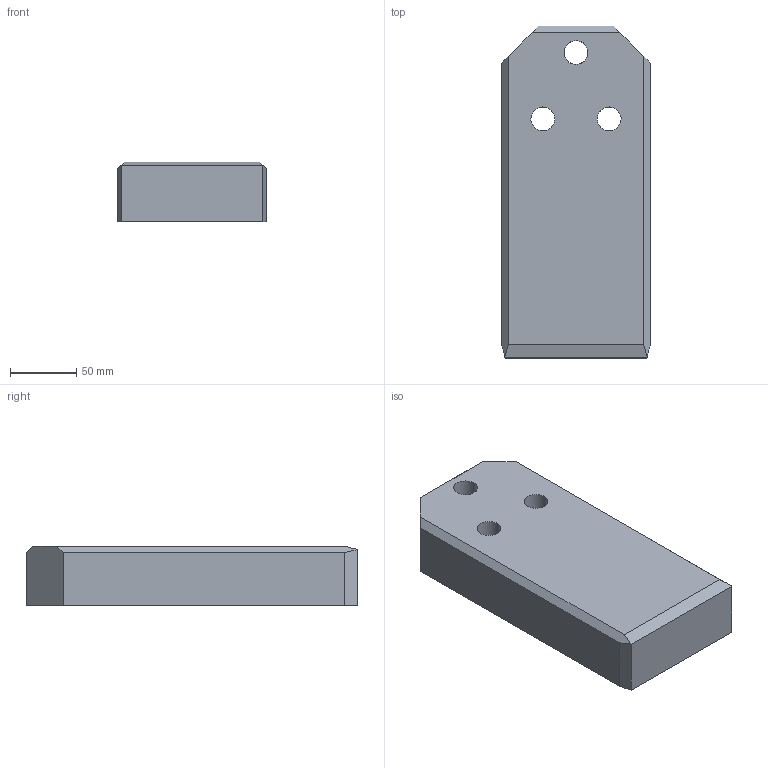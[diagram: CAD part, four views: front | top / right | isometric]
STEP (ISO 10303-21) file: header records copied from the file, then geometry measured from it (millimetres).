
FILE_DESCRIPTION(('CATIA V5 STEP Exchange'),'2;1');
FILE_NAME('C:\Users\borellobunino\Desktop\3D X SITO CF\A927\GSB_OILLESS_G2290511225045\STEP-2.03\A927-112X250X45.stp','2019-07-15T18:49:57+00:00',('none'),('none'),'CATIA Version 5 Release 20 GA (IN-10)','CATIA V5 STEP AP203','none');
FILE_SCHEMA(('CONFIG_CONTROL_DESIGN'));
Length unit declared in the file: millimetre
Products named in the file (1): A927-112X250X45
Bounding box: 112 x 250 x 45 mm (x, y, z)
Volume: 1163615 mm3; surface area: 90930.5 mm2
Topology: 1 solids, 1 shells, 35 faces, 84 edges, 54 vertices
Faces by surface type: plane 17, cylinder 12, cone 6
Entity records: 1296 total; most frequent: CARTESIAN_POINT 450, ORIENTED_EDGE 168, DIRECTION 142, EDGE_CURVE 84, AXIS2_PLACEMENT_3D 54, VECTOR 54, LINE 54, VERTEX_POINT 54
